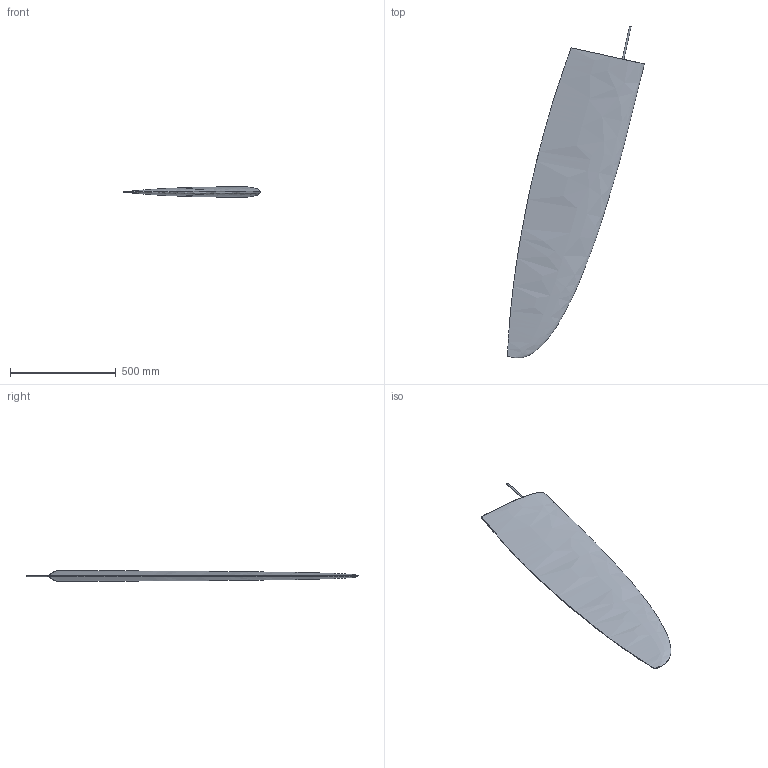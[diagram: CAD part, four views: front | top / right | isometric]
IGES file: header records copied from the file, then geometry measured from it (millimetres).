
Start section: SolidWorks IGES file using analytic representation for surfaces
Global section: file name: X:\Temp\web\rudder blade\CAD\RUD31R.IGS; native system: SolidWorks 2011; preprocessor: SolidWorks 2011; author: Armin Geisler; date: 111130.104502; units: millimetre
Bounding box: 645.55 x 1569.38 x 51.72 mm (x, y, z)
Surface area: 1003198 mm2 (no closed solid volume)
Topology: 0 solids, 0 shells, 9 faces, 375 edges, 373 vertices
Faces by surface type: bspline 7, revolution 2
